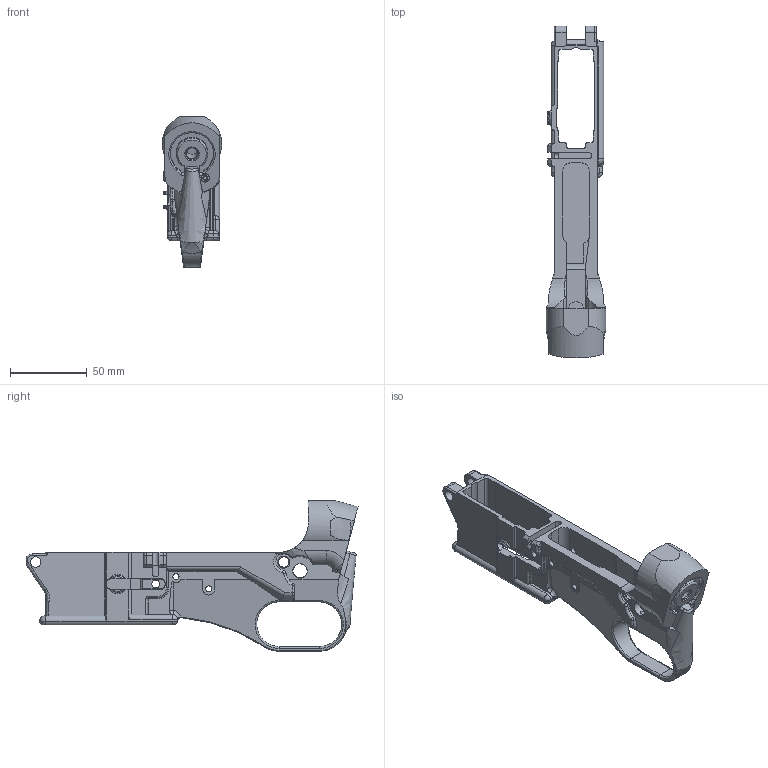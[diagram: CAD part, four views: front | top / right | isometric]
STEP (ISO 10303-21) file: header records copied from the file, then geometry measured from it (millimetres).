
FILE_DESCRIPTION(/* description */ (''),/* implementation_level */ '2;1');
FILE_NAME(/* name */ 'G:/Developer/Repos/Superstar-15/STEPs/Lower Reciever/MKIIb_Reciever.step',/* time_stamp */ '2020-10-31T21:54:15-04:00',/* author */ (''),/* organization */ (''),/* preprocessor_version */ 'ST-DEVELOPER v18.1',/* originating_system */ 'Autodesk Translation Framework v9.3.0.1241',/* authorisation */ '');
FILE_SCHEMA (('AUTOMOTIVE_DESIGN { 1 0 10303 214 3 1 1 }'));
Length unit declared in the file: millimetre
Products named in the file (1): MKIIb_Reciever
Bounding box: 38.7 x 216.67 x 98.15 mm (x, y, z)
Volume: 133287.3 mm3; surface area: 55917.4 mm2
Topology: 1 solids, 1 shells, 559 faces, 1560 edges, 984 vertices
Faces by surface type: cylinder 249, plane 174, bspline 82, torus 35, cone 12, sphere 7
Full cylindrical faces by diameter (mm): 1.981 x1, 2.35 x14, 2.5 x1, 2.6 x2, 3 x15, 3.962 x4, 5.182 x1, 5.5 x1, 6.775 x4, 7.45 x1, 7.925 x3, 9.436 x2, 10.476 x1
Entity records: 25749 total; most frequent: CARTESIAN_POINT 11868, ORIENTED_EDGE 3092, DIRECTION 2699, EDGE_CURVE 1546, AXIS2_PLACEMENT_3D 996, VERTEX_POINT 984, LINE 707, VECTOR 707
